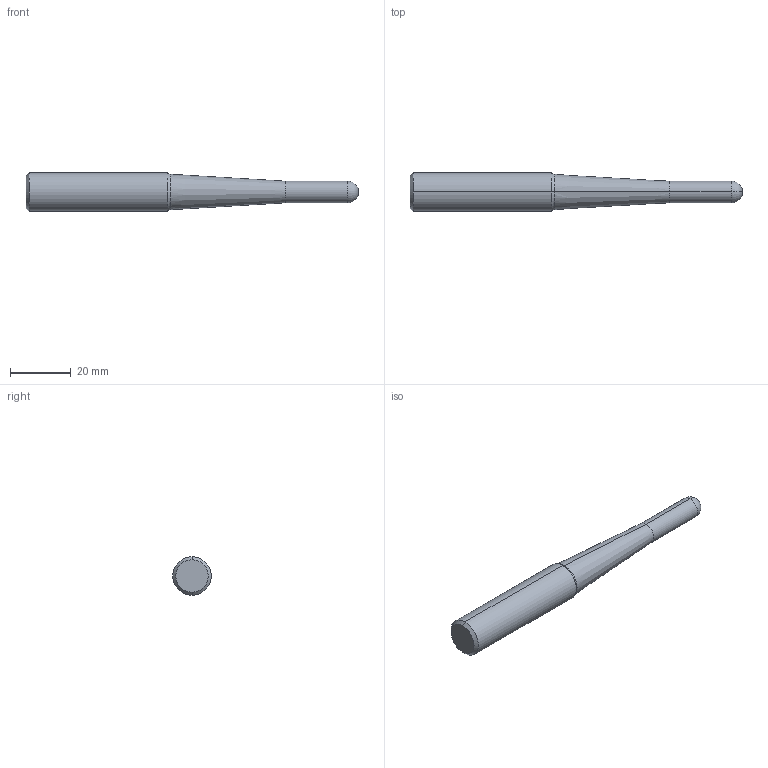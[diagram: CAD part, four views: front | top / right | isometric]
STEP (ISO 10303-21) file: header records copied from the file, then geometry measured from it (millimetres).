
FILE_DESCRIPTION (( 'STEP AP214' ), '1' );
FILE_NAME ('01-0224.STEP', '2021-02-10T00:29:35', ( 'USER' ), ( '' ), 'SwSTEP 2.0', 'SolidWorks 2018', '' );
FILE_SCHEMA (( 'AUTOMOTIVE_DESIGN' ));
Length unit declared in the file: millimetre
Products named in the file (2): 01-0224
Bounding box: 109.6 x 12.7 x 12.7 mm (x, y, z)
Volume: 9622.2 mm3; surface area: 3675.7 mm2
Topology: 1 solids, 1 shells, 14 faces, 26 edges, 14 vertices
Faces by surface type: cone 4, cylinder 4, torus 4, plane 2
Entity records: 397 total; most frequent: DIRECTION 76, CARTESIAN_POINT 56, ORIENTED_EDGE 52, AXIS2_PLACEMENT_3D 34, EDGE_CURVE 26, CIRCLE 18, ADVANCED_FACE 14, FACE_OUTER_BOUND 14
